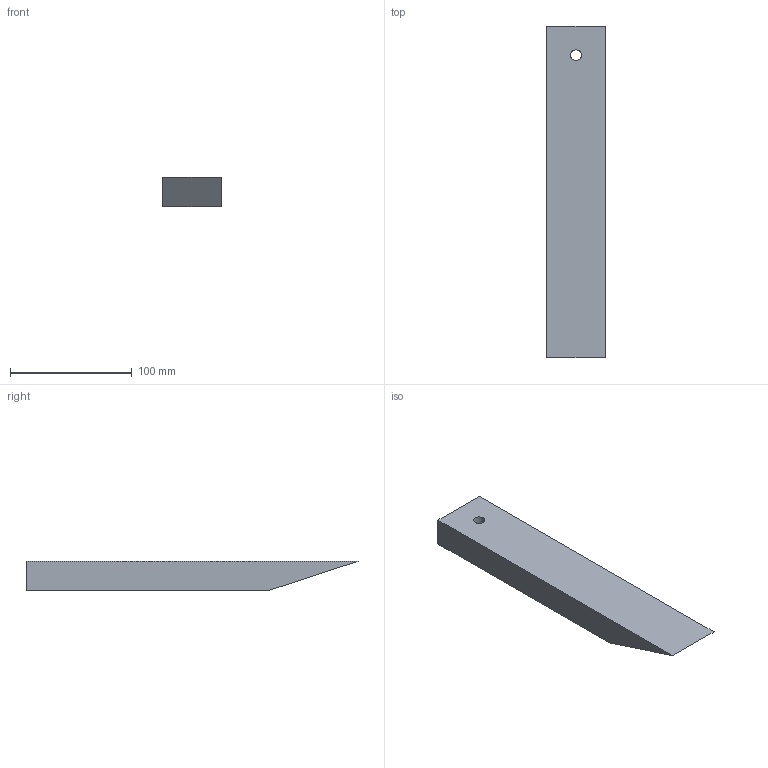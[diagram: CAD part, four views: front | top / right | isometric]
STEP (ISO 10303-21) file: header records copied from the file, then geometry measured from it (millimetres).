
FILE_DESCRIPTION (( 'STEP AP203' ), '1' );
FILE_NAME ('Tasseau_273_Deflecteur.STEP', '2026-06-24T07:29:51', ( '' ), ( '' ), 'SwSTEP 2.0', 'SolidWorks 2024', '' );
FILE_SCHEMA (( 'CONFIG_CONTROL_DESIGN' ));
Length unit declared in the file: millimetre
Products named in the file (1): Tasseau_273_Deflecteur_Usiné
Bounding box: 48 x 273 x 24 mm (x, y, z)
Volume: 270423.3 mm3; surface area: 39425.1 mm2
Topology: 1 solids, 1 shells, 7 faces, 15 edges, 10 vertices
Faces by surface type: plane 6, cylinder 1
Full cylindrical faces by diameter (mm): 9 x1
Entity records: 265 total; most frequent: CARTESIAN_POINT 32, DIRECTION 32, ORIENTED_EDGE 28, EDGE_CURVE 14, VECTOR 12, LINE 12, AXIS2_PLACEMENT_3D 10, EDGE_LOOP 10
